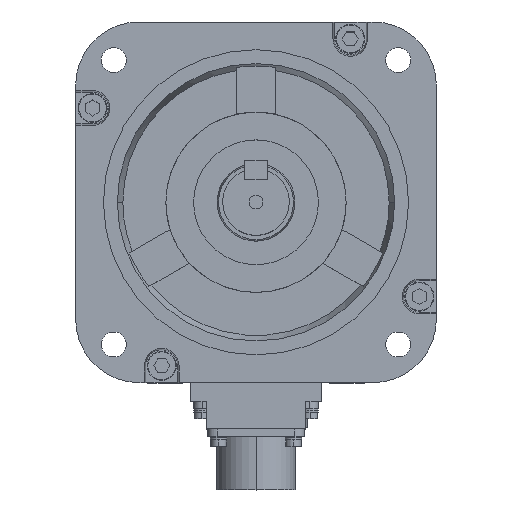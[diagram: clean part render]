
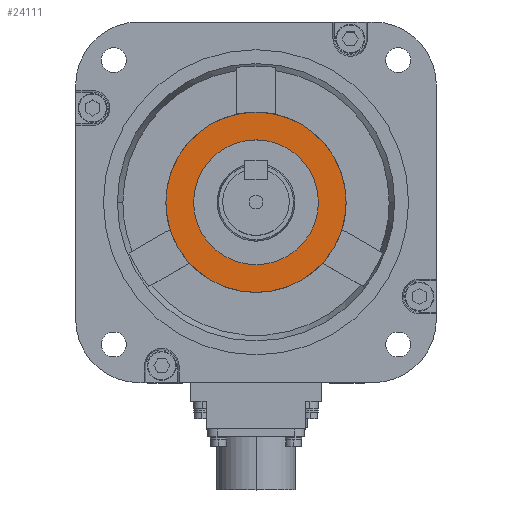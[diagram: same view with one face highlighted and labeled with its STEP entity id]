
A CAD part, top view. The second image highlights one B-rep face of the part: STEP entity #24111.
In plain terms, the highlighted planar face has unit normal (0, 0, 1).
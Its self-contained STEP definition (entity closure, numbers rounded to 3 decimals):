
#698 = DIRECTION ( 'NONE',  ( 1., 0., 0. ) ) ;
#699 = DIRECTION ( 'NONE',  ( 0., 0., 1. ) ) ;
#700 = CARTESIAN_POINT ( 'NONE',  ( 0., 0., 6. ) ) ;
#701 = AXIS2_PLACEMENT_3D ( 'NONE', #700, #699, #698 ) ;
#702 = CIRCLE ( 'NONE', #701, 32.5 ) ;
#4194 = DIRECTION ( 'NONE',  ( 1., 0., 0. ) ) ;
#4195 = DIRECTION ( 'NONE',  ( 0., 0., 1. ) ) ;
#4196 = CARTESIAN_POINT ( 'NONE',  ( 0., 0., 6. ) ) ;
#4197 = AXIS2_PLACEMENT_3D ( 'NONE', #4196, #4195, #4194 ) ;
#4198 = CIRCLE ( 'NONE', #4197, 22.5 ) ;
#4199 = DIRECTION ( 'NONE',  ( 1., 0., 0. ) ) ;
#4200 = DIRECTION ( 'NONE',  ( 0., 0., 1. ) ) ;
#4201 = CARTESIAN_POINT ( 'NONE',  ( 0., 0., 6. ) ) ;
#4202 = AXIS2_PLACEMENT_3D ( 'NONE', #4201, #4200, #4199 ) ;
#4203 = PLANE ( 'NONE',  #4202 ) ;
#4205 = FACE_OUTER_BOUND ( 'NONE', #23396, .T. ) ;
#4206 = FACE_BOUND ( 'NONE', #23454, .T. ) ;
#5919 = VERTEX_POINT ( 'NONE', #13741 ) ;
#6494 = CARTESIAN_POINT ( 'NONE',  ( -32.5, 0., 6. ) ) ;
#10933 = EDGE_CURVE ( 'NONE', #5919, #25433, #15011, .T. ) ;
#12439 = VERTEX_POINT ( 'NONE', #18130 ) ;
#12507 = VERTEX_POINT ( 'NONE', #18271 ) ;
#12519 = EDGE_CURVE ( 'NONE', #12439, #12507, #18253, .T. ) ;
#13741 = CARTESIAN_POINT ( 'NONE',  ( 32.5, 0., 6. ) ) ;
#15009 = CARTESIAN_POINT ( 'NONE',  ( 0., 0., 6. ) ) ;
#15010 = AXIS2_PLACEMENT_3D ( 'NONE', #15009, #15074, #15073 ) ;
#15011 = CIRCLE ( 'NONE', #15010, 32.5 ) ;
#15073 = DIRECTION ( 'NONE',  ( 1., 0., 0. ) ) ;
#15074 = DIRECTION ( 'NONE',  ( 0., 0., 1. ) ) ;
#18130 = CARTESIAN_POINT ( 'NONE',  ( -22.5, 0., 6. ) ) ;
#18253 = CIRCLE ( 'NONE', #18316, 22.5 ) ;
#18271 = CARTESIAN_POINT ( 'NONE',  ( 22.5, 0., 6. ) ) ;
#18313 = DIRECTION ( 'NONE',  ( 1., 0., 0. ) ) ;
#18314 = DIRECTION ( 'NONE',  ( 0., 0., 1. ) ) ;
#18315 = CARTESIAN_POINT ( 'NONE',  ( 0., 0., 6. ) ) ;
#18316 = AXIS2_PLACEMENT_3D ( 'NONE', #18315, #18314, #18313 ) ;
#22190 = EDGE_CURVE ( 'NONE', #25433, #5919, #702, .T. ) ;
#23379 = ORIENTED_EDGE ( 'NONE', *, *, #22190, .T. ) ;
#23396 = EDGE_LOOP ( 'NONE', ( #23397, #23379 ) ) ;
#23397 = ORIENTED_EDGE ( 'NONE', *, *, #10933, .T. ) ;
#23411 = ORIENTED_EDGE ( 'NONE', *, *, #12519, .F. ) ;
#23429 = ORIENTED_EDGE ( 'NONE', *, *, #24112, .F. ) ;
#23454 = EDGE_LOOP ( 'NONE', ( #23429, #23411 ) ) ;
#24111 = ADVANCED_FACE ( 'NONE', ( #4206, #4205 ), #4203, .T. ) ;
#24112 = EDGE_CURVE ( 'NONE', #12507, #12439, #4198, .T. ) ;
#25433 = VERTEX_POINT ( 'NONE', #6494 ) ;
